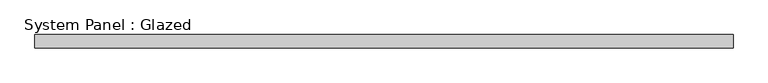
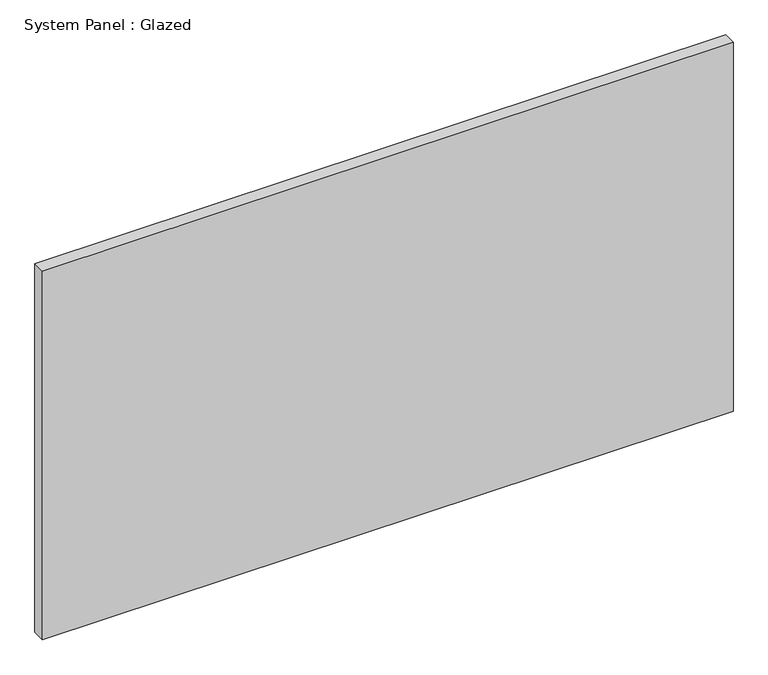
"""IFC4 building model written with IfcOpenShell, lengths in millimetres: plate geometry, System Panel : Glazed."""

from ifc_helpers import new_model, si_unit, origin, origin_with_axes, place, context, project, spatial, polyline, outline, extrude, source, transform, mapped, element, save


def system_panel_glazed_53162424(model_context):
    return source(origin(), model_context, "Body", "SweptSolid", [
        extrude(outline(polyline([(663.9089134, -49.5), (-663.9089134, -49.5), (-663.9089134, -24.5), (663.9089134, -24.5), (663.9089134, -49.5)])), origin_with_axes(), (0.0, 0.0, 1.0), 749.5150656),
    ])


if __name__ == "__main__":
    model = new_model("IFC4")
    model_context = context("Model", 3, world=origin())
    ifc_project = project(units=[si_unit("LENGTHUNIT", "METRE", prefix="MILLI")], contexts=[model_context])
    site = spatial("IfcSite", under=ifc_project)
    building = spatial("IfcBuilding", under=site)
    placement = place(None, origin())
    system_panel_glazed_shape = system_panel_glazed_53162424(model_context)
    element("IfcPlate", 1, ObjectType="System Panel : Glazed", at=placement, inside=building, context=model_context, shape_type="MappedRepresentation", body=[
        mapped(system_panel_glazed_shape, transform((0.0, 0.0, 0.0), x_axis=(1.0, 0.0, 0.0), y_axis=(0.0, 1.0, 0.0), z_axis=(0.0, 0.0, 1.0))),
    ])
    save(model, "model.ifc")
